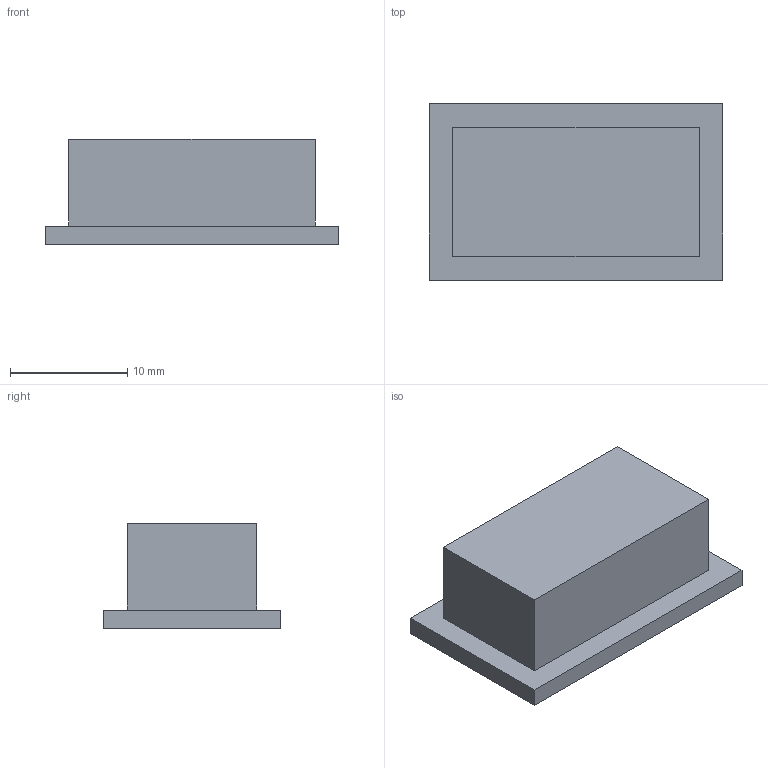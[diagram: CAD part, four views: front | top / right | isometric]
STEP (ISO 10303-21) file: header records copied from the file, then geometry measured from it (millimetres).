
FILE_DESCRIPTION(('Open CASCADE Model'),'2;1');
FILE_NAME('Open CASCADE Shape Model','2026-08-07T13:51:21',('Author'),( 'Open CASCADE'),'Open CASCADE STEP processor 7.9','Open CASCADE 7.9' ,'Unknown');
FILE_SCHEMA(('AUTOMOTIVE_DESIGN { 1 0 10303 214 1 1 1 1 }'));
Length unit declared in the file: millimetre
Products named in the file (1): MAX6675板(外購)
Bounding box: 25 x 15 x 9 mm (x, y, z)
Volume: 2309.4 mm3; surface area: 1351.6 mm2
Topology: 1 solids, 1 shells, 11 faces, 24 edges, 16 vertices
Faces by surface type: plane 11
Entity records: 620 total; most frequent: CARTESIAN_POINT 100, DIRECTION 96, LINE 72, VECTOR 72, ORIENTED_EDGE 48, PCURVE 48, DEFINITIONAL_REPRESENTATION 48, EDGE_CURVE 24
